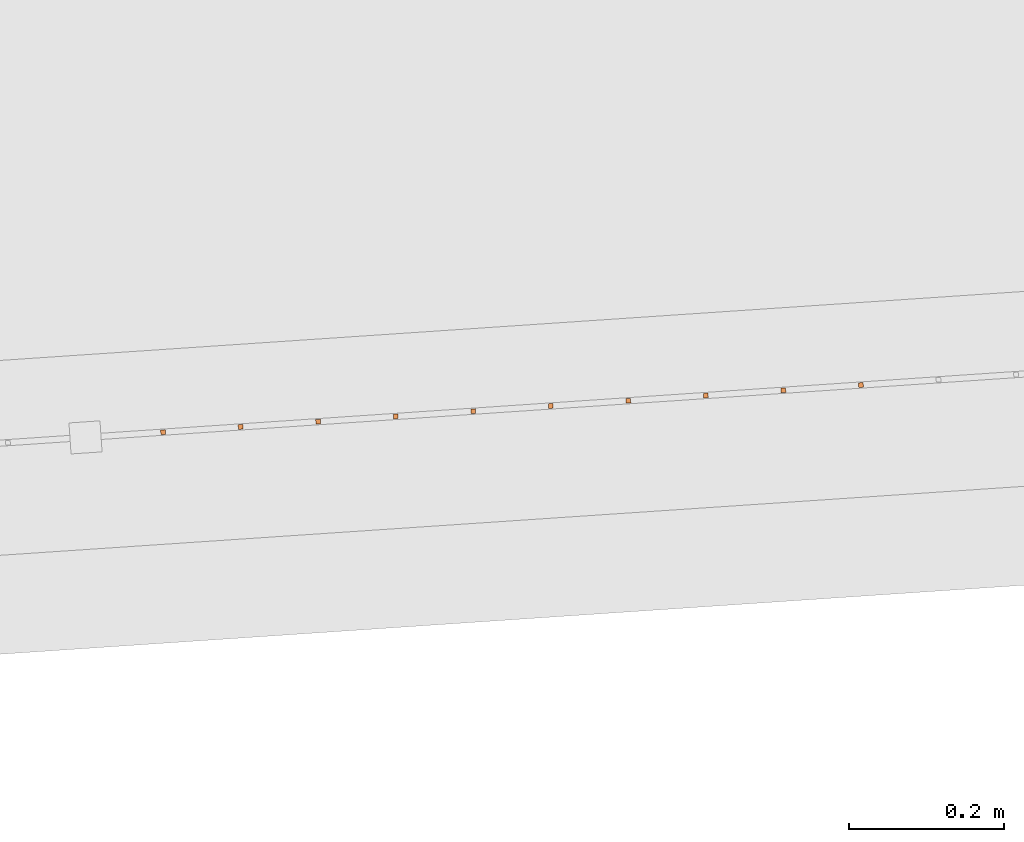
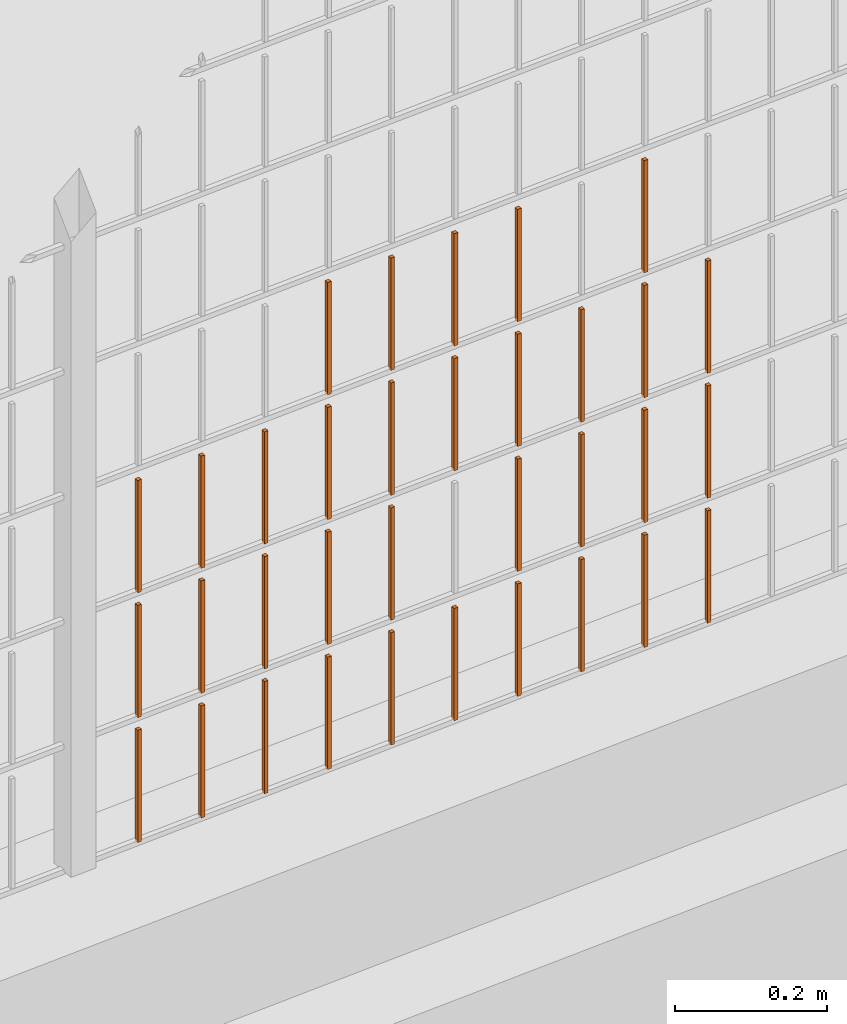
# One storey, part 322 of 1809: 34 proxies, 1 element without a shape of its own.
"""IFC2X3 building model written with IfcOpenShell, lengths in millimetres."""

from ifc_helpers import new_model, entity, si_unit, converted_unit, derived_unit, money_unit, direction, frame, origin_with_axes, place, context, subcontext, project, spatial, faceted_brep, source, transform, mapped, material, type_object, element, aggregate, save


model = new_model("IFC2X3")

# Units and contexts
model_context = context("Model", 3, precision=0.01, world=origin_with_axes(), true_north=direction((0.0, 1.0)))
body_context = subcontext(model_context, "Body", "Model", "MODEL_VIEW")
ifc_project = project(units=[si_unit("LENGTHUNIT", "METRE", prefix="MILLI"), si_unit("AREAUNIT", "SQUARE_METRE"), si_unit("VOLUMEUNIT", "CUBIC_METRE"), converted_unit("PLANEANGLEUNIT", "DEGREE", entity("IfcPlaneAngleMeasure", 0.0174532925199), si_unit("PLANEANGLEUNIT", "RADIAN"), dimensions=[0, 0, 0, 0, 0, 0, 0]), si_unit("SOLIDANGLEUNIT", "STERADIAN"), money_unit("EUR"), converted_unit("TIMEUNIT", "Year", entity("IfcTimeMeasure", 31556926.0), si_unit("TIMEUNIT", "SECOND"), dimensions=[0, 0, 1, 0, 0, 0, 0]), si_unit("MASSUNIT", "GRAM", prefix="KILO"), si_unit("THERMODYNAMICTEMPERATUREUNIT", "DEGREE_CELSIUS"), si_unit("LUMINOUSINTENSITYUNIT", "LUMEN"), si_unit("ENERGYUNIT", "JOULE", prefix="MEGA"), derived_unit("THERMALCONDUCTANCEUNIT", [(si_unit("POWERUNIT", "WATT"), 1), (si_unit("LENGTHUNIT", "METRE"), -1), (si_unit("THERMODYNAMICTEMPERATUREUNIT", "KELVIN"), -1)]), derived_unit("SPECIFICHEATCAPACITYUNIT", [(si_unit("ENERGYUNIT", "JOULE"), 1), (si_unit("MASSUNIT", "GRAM", prefix="KILO"), -1), (si_unit("THERMODYNAMICTEMPERATUREUNIT", "KELVIN"), -1)]), derived_unit("MASSDENSITYUNIT", [(si_unit("MASSUNIT", "GRAM", prefix="KILO"), 1), (si_unit("VOLUMEUNIT", "CUBIC_METRE"), -1)])], contexts=[model_context])

# Site, building, storey
site_placement = place(None, origin_with_axes())
site = spatial("IfcSite", under=ifc_project, at=site_placement, Name="Politse- ja Piirivalveameti ning Päästeameti ühishoone", CompositionType="ELEMENT")
building_placement = place(site_placement, origin_with_axes())
building = spatial("IfcBuilding", under=site, at=building_placement, Name="Politse- ja Piirivalveameti ning Päästeameti ühishoone", CompositionType="ELEMENT")
storey_placement = place(building_placement, origin_with_axes())
storey = spatial("IfcBuildingStorey", under=building, at=storey_placement, Name="Esimene korrus", CompositionType="ELEMENT", Elevation=0.0)

# Proxies
building_element_proxy_type_1 = type_object("IfcBuildingElementProxyType", Name="Railing Type", PredefinedType="NOTDEFINED")
proxy_1_placement = place(storey_placement, frame((89252.001212, -29183.4766571, 203.661247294), z_axis=(0.0, 0.0, 1.0), x_axis=(1.0, 0.0, 0.0)))
proxy_1 = element("IfcBuildingElementProxy", 1, at=proxy_1_placement, inside=storey, type_object=building_element_proxy_type_1, Name="PIIRDEAED")
ifc_material = material(Name="ET-03_Raud")
building_element_proxy_type_2 = type_object("IfcBuildingElementProxyType", Name="IfcBuildingElementProxy", PredefinedType="NOTDEFINED")
shared_shape_1 = source(origin_with_axes(), body_context, "Body", "Brep", [
    faceted_brep([(3.0, 3.0, -0.000752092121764), (-3.0, 3.0, -0.000752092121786), (-3.0, 3.0, 179.99926046), (3.0, 3.0, 179.99926046), (3.0, -3.0, 0.000752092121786), (-3.0, -3.0, 0.000752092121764), (-3.0, -3.0, 180.000764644), (3.0, -3.0, 180.000764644)], [[[0, 1, 2, 3]], [[0, 4, 5, 1]], [[1, 5, 6, 2]], [[3, 2, 6, 7]], [[4, 0, 3, 7]], [[5, 4, 7, 6]]]),
])
proxy_2_placement = place(proxy_1_placement, frame((-37142.0542199, -19806.5803551, 217.901752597), z_axis=(0.0, 0.0, 1.0), x_axis=(1.0, 0.0, 0.0)))
proxy_2 = element("IfcBuildingElementProxy", 2, at=proxy_2_placement, type_object=building_element_proxy_type_2, material=ifc_material, Name="BALUSTER - 001", context=body_context, shape_type="MappedRepresentation", body=[
    mapped(shared_shape_1, transform((0.0, 0.0, 0.0), x_axis=(-0.0673926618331, 0.997726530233, 0.0), y_axis=(-0.997726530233, -0.0673926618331, 0.0), z_axis=(0.0, 0.0, 1.0))),
])
shared_shape_2 = source(origin_with_axes(), body_context, "Body", "Brep", [
    faceted_brep([(3.0, 3.0, -0.000752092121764), (-3.0, 3.0, -0.000752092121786), (-3.0, 3.0, 179.99926046), (3.0, 3.0, 179.99926046), (3.0, -3.0, 0.000752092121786), (-3.0, -3.0, 0.000752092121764), (-3.0, -3.0, 180.000764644), (3.0, -3.0, 180.000764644)], [[[0, 1, 2, 3]], [[0, 4, 5, 1]], [[1, 5, 6, 2]], [[3, 2, 6, 7]], [[4, 0, 3, 7]], [[5, 4, 7, 6]]]),
])
proxy_3_placement = place(proxy_1_placement, frame((-37142.0542199, -19806.5803551, 417.901752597), z_axis=(0.0, 0.0, 1.0), x_axis=(1.0, 0.0, 0.0)))
proxy_3 = element("IfcBuildingElementProxy", 3, at=proxy_3_placement, type_object=building_element_proxy_type_2, material=ifc_material, Name="BALUSTER - 001", context=body_context, shape_type="MappedRepresentation", body=[
    mapped(shared_shape_2, transform((0.0, 0.0, 0.0), x_axis=(-0.0673926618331, 0.997726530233, 0.0), y_axis=(-0.997726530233, -0.0673926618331, 0.0), z_axis=(0.0, 0.0, 1.0))),
])
shared_shape_3 = source(origin_with_axes(), body_context, "Body", "Brep", [
    faceted_brep([(3.0, 3.0, -0.000752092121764), (-3.0, 3.0, -0.000752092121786), (-3.0, 3.0, 179.99926046), (3.0, 3.0, 179.99926046), (3.0, -3.0, 0.000752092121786), (-3.0, -3.0, 0.000752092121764), (-3.0, -3.0, 180.000764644), (3.0, -3.0, 180.000764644)], [[[0, 1, 2, 3]], [[0, 4, 5, 1]], [[1, 5, 6, 2]], [[3, 2, 6, 7]], [[4, 0, 3, 7]], [[5, 4, 7, 6]]]),
])
proxy_4_placement = place(proxy_1_placement, frame((-37142.0542199, -19806.5803551, 17.9017525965), z_axis=(0.0, 0.0, 1.0), x_axis=(1.0, 0.0, 0.0)))
proxy_4 = element("IfcBuildingElementProxy", 4, at=proxy_4_placement, type_object=building_element_proxy_type_2, material=ifc_material, Name="BALUSTER - 001", context=body_context, shape_type="MappedRepresentation", body=[
    mapped(shared_shape_3, transform((0.0, 0.0, 0.0), x_axis=(-0.0673926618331, 0.997726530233, 0.0), y_axis=(-0.997726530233, -0.0673926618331, 0.0), z_axis=(0.0, 0.0, 1.0))),
])
shared_shape_4 = source(origin_with_axes(), body_context, "Body", "Brep", [
    faceted_brep([(3.0, 3.0, -0.000752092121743), (-3.0, 3.0, -0.000752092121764), (-3.0, 3.0, 179.99926046), (3.0, 3.0, 179.99926046), (3.0, -3.0, 0.000752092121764), (-3.0, -3.0, 0.000752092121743), (-3.0, -3.0, 180.000764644), (3.0, -3.0, 180.000764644)], [[[0, 1, 2, 3]], [[0, 4, 5, 1]], [[1, 5, 6, 2]], [[3, 2, 6, 7]], [[4, 0, 3, 7]], [[5, 4, 7, 6]]]),
])
proxy_5_placement = place(proxy_1_placement, frame((-36343.8729957, -19752.6662256, 218.102310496), z_axis=(0.0, 0.0, 1.0), x_axis=(1.0, 0.0, 0.0)))
proxy_5 = element("IfcBuildingElementProxy", 5, at=proxy_5_placement, type_object=building_element_proxy_type_2, material=ifc_material, Name="BALUSTER - 001", context=body_context, shape_type="MappedRepresentation", body=[
    mapped(shared_shape_4, transform((0.0, 0.0, 0.0), x_axis=(-0.0673926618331, 0.997726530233, 0.0), y_axis=(-0.997726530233, -0.0673926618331, 0.0), z_axis=(0.0, 0.0, 1.0))),
])
proxy_6_placement = place(proxy_1_placement, frame((-36343.8729957, -19752.6662256, 418.102310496), z_axis=(0.0, 0.0, 1.0), x_axis=(1.0, 0.0, 0.0)))
proxy_6 = element("IfcBuildingElementProxy", 6, at=proxy_6_placement, type_object=building_element_proxy_type_2, material=ifc_material, Name="BALUSTER - 001", context=body_context, shape_type="MappedRepresentation", body=[
    mapped(shared_shape_4, transform((0.0, 0.0, 0.0), x_axis=(-0.0673926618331, 0.997726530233, 0.0), y_axis=(-0.997726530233, -0.0673926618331, 0.0), z_axis=(0.0, 0.0, 1.0))),
])
shared_shape_5 = source(origin_with_axes(), body_context, "Body", "Brep", [
    faceted_brep([(3.0, 3.0, -0.000752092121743), (-3.0, 3.0, -0.000752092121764), (-3.0, 3.0, 179.99926046), (3.0, 3.0, 179.99926046), (3.0, -3.0, 0.000752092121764), (-3.0, -3.0, 0.000752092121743), (-3.0, -3.0, 180.000764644), (3.0, -3.0, 180.000764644)], [[[0, 1, 2, 3]], [[0, 4, 5, 1]], [[1, 5, 6, 2]], [[3, 2, 6, 7]], [[4, 0, 3, 7]], [[5, 4, 7, 6]]]),
])
proxy_7_placement = place(proxy_1_placement, frame((-36343.8729957, -19752.6662256, 618.102310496), z_axis=(0.0, 0.0, 1.0), x_axis=(1.0, 0.0, 0.0)))
proxy_7 = element("IfcBuildingElementProxy", 7, at=proxy_7_placement, type_object=building_element_proxy_type_2, material=ifc_material, Name="BALUSTER - 001", context=body_context, shape_type="MappedRepresentation", body=[
    mapped(shared_shape_5, transform((0.0, 0.0, 0.0), x_axis=(-0.0673926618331, 0.997726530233, 0.0), y_axis=(-0.997726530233, -0.0673926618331, 0.0), z_axis=(0.0, 0.0, 1.0))),
])
shared_shape_6 = source(origin_with_axes(), body_context, "Body", "Brep", [
    faceted_brep([(3.0, 3.0, -0.000752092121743), (-3.0, 3.0, -0.000752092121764), (-3.0, 3.0, 179.99926046), (3.0, 3.0, 179.99926046), (3.0, -3.0, 0.000752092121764), (-3.0, -3.0, 0.000752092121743), (-3.0, -3.0, 180.000764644), (3.0, -3.0, 180.000764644)], [[[0, 1, 2, 3]], [[0, 4, 5, 1]], [[1, 5, 6, 2]], [[3, 2, 6, 7]], [[4, 0, 3, 7]], [[5, 4, 7, 6]]]),
])
proxy_8_placement = place(proxy_1_placement, frame((-36343.8729957, -19752.6662256, 18.1023104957), z_axis=(0.0, 0.0, 1.0), x_axis=(1.0, 0.0, 0.0)))
proxy_8 = element("IfcBuildingElementProxy", 8, at=proxy_8_placement, type_object=building_element_proxy_type_2, material=ifc_material, Name="BALUSTER - 001", context=body_context, shape_type="MappedRepresentation", body=[
    mapped(shared_shape_6, transform((0.0, 0.0, 0.0), x_axis=(-0.0673926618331, 0.997726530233, 0.0), y_axis=(-0.997726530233, -0.0673926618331, 0.0), z_axis=(0.0, 0.0, 1.0))),
])
shared_shape_7 = source(origin_with_axes(), body_context, "Body", "Brep", [
    faceted_brep([(3.0, 3.0, -0.000752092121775), (-3.0, 3.0, -0.000752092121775), (-3.0, 3.0, 179.99926046), (3.0, 3.0, 179.99926046), (3.0, -3.0, 0.000752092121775), (-3.0, -3.0, 0.000752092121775), (-3.0, -3.0, 180.000764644), (3.0, -3.0, 180.000764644)], [[[0, 1, 2, 3]], [[0, 4, 5, 1]], [[1, 5, 6, 2]], [[3, 2, 6, 7]], [[4, 0, 3, 7]], [[5, 4, 7, 6]]]),
])
proxy_9_placement = place(proxy_1_placement, frame((-36543.4183017, -19766.144758, 18.0521710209), z_axis=(0.0, 0.0, 1.0), x_axis=(1.0, 0.0, 0.0)))
proxy_9 = element("IfcBuildingElementProxy", 9, at=proxy_9_placement, type_object=building_element_proxy_type_2, material=ifc_material, Name="BALUSTER - 001", context=body_context, shape_type="MappedRepresentation", body=[
    mapped(shared_shape_7, transform((0.0, 0.0, 0.0), x_axis=(-0.0673926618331, 0.997726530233, 0.0), y_axis=(-0.997726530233, -0.0673926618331, 0.0), z_axis=(0.0, 0.0, 1.0))),
])
shared_shape_8 = source(origin_with_axes(), body_context, "Body", "Brep", [
    faceted_brep([(3.0, 3.0, -0.000752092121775), (-3.0, 3.0, -0.000752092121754), (-3.0, 3.0, 179.99926046), (3.0, 3.0, 179.99926046), (3.0, -3.0, 0.000752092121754), (-3.0, -3.0, 0.000752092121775), (-3.0, -3.0, 180.000764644), (3.0, -3.0, 180.000764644)], [[[0, 1, 2, 3]], [[0, 4, 5, 1]], [[1, 5, 6, 2]], [[3, 2, 6, 7]], [[4, 0, 3, 7]], [[5, 4, 7, 6]]]),
])
proxy_10_placement = place(proxy_1_placement, frame((-36742.9636078, -19779.6232904, 18.0020315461), z_axis=(0.0, 0.0, 1.0), x_axis=(1.0, 0.0, 0.0)))
proxy_10 = element("IfcBuildingElementProxy", 10, at=proxy_10_placement, type_object=building_element_proxy_type_2, material=ifc_material, Name="BALUSTER - 001", context=body_context, shape_type="MappedRepresentation", body=[
    mapped(shared_shape_8, transform((0.0, 0.0, 0.0), x_axis=(-0.0673926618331, 0.997726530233, 0.0), y_axis=(-0.997726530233, -0.0673926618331, 0.0), z_axis=(0.0, 0.0, 1.0))),
])
shared_shape_9 = source(origin_with_axes(), body_context, "Body", "Brep", [
    faceted_brep([(3.0, 3.0, -0.000752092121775), (-3.0, 3.0, -0.000752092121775), (-3.0, 3.0, 179.99926046), (3.0, 3.0, 179.99926046), (3.0, -3.0, 0.000752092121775), (-3.0, -3.0, 0.000752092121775), (-3.0, -3.0, 180.000764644), (3.0, -3.0, 180.000764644)], [[[0, 1, 2, 3]], [[0, 4, 5, 1]], [[1, 5, 6, 2]], [[3, 2, 6, 7]], [[4, 0, 3, 7]], [[5, 4, 7, 6]]]),
])
proxy_11_placement = place(proxy_1_placement, frame((-36543.4183017, -19766.144758, 218.052171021), z_axis=(0.0, 0.0, 1.0), x_axis=(1.0, 0.0, 0.0)))
proxy_11 = element("IfcBuildingElementProxy", 11, at=proxy_11_placement, type_object=building_element_proxy_type_2, material=ifc_material, Name="BALUSTER - 001", context=body_context, shape_type="MappedRepresentation", body=[
    mapped(shared_shape_9, transform((0.0, 0.0, 0.0), x_axis=(-0.0673926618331, 0.997726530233, 0.0), y_axis=(-0.997726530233, -0.0673926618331, 0.0), z_axis=(0.0, 0.0, 1.0))),
])
proxy_12_placement = place(proxy_1_placement, frame((-36543.4183017, -19766.144758, 418.052171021), z_axis=(0.0, 0.0, 1.0), x_axis=(1.0, 0.0, 0.0)))
proxy_12 = element("IfcBuildingElementProxy", 12, at=proxy_12_placement, type_object=building_element_proxy_type_2, material=ifc_material, Name="BALUSTER - 001", context=body_context, shape_type="MappedRepresentation", body=[
    mapped(shared_shape_9, transform((0.0, 0.0, 0.0), x_axis=(-0.0673926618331, 0.997726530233, 0.0), y_axis=(-0.997726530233, -0.0673926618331, 0.0), z_axis=(0.0, 0.0, 1.0))),
])
shared_shape_10 = source(origin_with_axes(), body_context, "Body", "Brep", [
    faceted_brep([(3.0, 3.0, -0.000752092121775), (-3.0, 3.0, -0.000752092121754), (-3.0, 3.0, 179.99926046), (3.0, 3.0, 179.99926046), (3.0, -3.0, 0.000752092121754), (-3.0, -3.0, 0.000752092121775), (-3.0, -3.0, 180.000764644), (3.0, -3.0, 180.000764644)], [[[0, 1, 2, 3]], [[0, 4, 5, 1]], [[1, 5, 6, 2]], [[3, 2, 6, 7]], [[4, 0, 3, 7]], [[5, 4, 7, 6]]]),
])
proxy_13_placement = place(proxy_1_placement, frame((-36742.9636078, -19779.6232904, 218.002031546), z_axis=(0.0, 0.0, 1.0), x_axis=(1.0, 0.0, 0.0)))
proxy_13 = element("IfcBuildingElementProxy", 13, at=proxy_13_placement, type_object=building_element_proxy_type_2, material=ifc_material, Name="BALUSTER - 001", context=body_context, shape_type="MappedRepresentation", body=[
    mapped(shared_shape_10, transform((0.0, 0.0, 0.0), x_axis=(-0.0673926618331, 0.997726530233, 0.0), y_axis=(-0.997726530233, -0.0673926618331, 0.0), z_axis=(0.0, 0.0, 1.0))),
])
shared_shape_11 = source(origin_with_axes(), body_context, "Body", "Brep", [
    faceted_brep([(3.0, 3.0, -0.000752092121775), (-3.0, 3.0, -0.000752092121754), (-3.0, 3.0, 179.99926046), (3.0, 3.0, 179.99926046), (3.0, -3.0, 0.000752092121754), (-3.0, -3.0, 0.000752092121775), (-3.0, -3.0, 180.000764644), (3.0, -3.0, 180.000764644)], [[[0, 1, 2, 3]], [[0, 4, 5, 1]], [[1, 5, 6, 2]], [[3, 2, 6, 7]], [[4, 0, 3, 7]], [[5, 4, 7, 6]]]),
])
proxy_14_placement = place(proxy_1_placement, frame((-36742.9636078, -19779.6232904, 418.002031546), z_axis=(0.0, 0.0, 1.0), x_axis=(1.0, 0.0, 0.0)))
proxy_14 = element("IfcBuildingElementProxy", 14, at=proxy_14_placement, type_object=building_element_proxy_type_2, material=ifc_material, Name="BALUSTER - 001", context=body_context, shape_type="MappedRepresentation", body=[
    mapped(shared_shape_11, transform((0.0, 0.0, 0.0), x_axis=(-0.0673926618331, 0.997726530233, 0.0), y_axis=(-0.997726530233, -0.0673926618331, 0.0), z_axis=(0.0, 0.0, 1.0))),
])
shared_shape_12 = source(origin_with_axes(), body_context, "Body", "Brep", [
    faceted_brep([(3.0, 3.0, -0.000752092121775), (-3.0, 3.0, -0.000752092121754), (-3.0, 3.0, 179.99926046), (3.0, 3.0, 179.99926046), (3.0, -3.0, 0.000752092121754), (-3.0, -3.0, 0.000752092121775), (-3.0, -3.0, 180.000764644), (3.0, -3.0, 180.000764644)], [[[0, 1, 2, 3]], [[0, 4, 5, 1]], [[1, 5, 6, 2]], [[3, 2, 6, 7]], [[4, 0, 3, 7]], [[5, 4, 7, 6]]]),
])
proxy_15_placement = place(proxy_1_placement, frame((-36742.9636078, -19779.6232904, 618.002031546), z_axis=(0.0, 0.0, 1.0), x_axis=(1.0, 0.0, 0.0)))
proxy_15 = element("IfcBuildingElementProxy", 15, at=proxy_15_placement, type_object=building_element_proxy_type_2, material=ifc_material, Name="BALUSTER - 001", context=body_context, shape_type="MappedRepresentation", body=[
    mapped(shared_shape_12, transform((0.0, 0.0, 0.0), x_axis=(-0.0673926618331, 0.997726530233, 0.0), y_axis=(-0.997726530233, -0.0673926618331, 0.0), z_axis=(0.0, 0.0, 1.0))),
])
shared_shape_13 = source(origin_with_axes(), body_context, "Body", "Brep", [
    faceted_brep([(3.0, 3.0, -0.000752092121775), (-3.0, 3.0, -0.000752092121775), (-3.0, 3.0, 179.99926046), (3.0, 3.0, 179.99926046), (3.0, -3.0, 0.000752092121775), (-3.0, -3.0, 0.000752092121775), (-3.0, -3.0, 180.000764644), (3.0, -3.0, 180.000764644)], [[[0, 1, 2, 3]], [[0, 4, 5, 1]], [[1, 5, 6, 2]], [[3, 2, 6, 7]], [[4, 0, 3, 7]], [[5, 4, 7, 6]]]),
])
proxy_16_placement = place(proxy_1_placement, frame((-36543.4183017, -19766.144758, 618.052171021), z_axis=(0.0, 0.0, 1.0), x_axis=(1.0, 0.0, 0.0)))
proxy_16 = element("IfcBuildingElementProxy", 16, at=proxy_16_placement, type_object=building_element_proxy_type_2, material=ifc_material, Name="BALUSTER - 001", context=body_context, shape_type="MappedRepresentation", body=[
    mapped(shared_shape_13, transform((0.0, 0.0, 0.0), x_axis=(-0.0673926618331, 0.997726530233, 0.0), y_axis=(-0.997726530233, -0.0673926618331, 0.0), z_axis=(0.0, 0.0, 1.0))),
])
shared_shape_14 = source(origin_with_axes(), body_context, "Body", "Brep", [
    faceted_brep([(3.0, 3.0, -0.000752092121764), (-3.0, 3.0, -0.000752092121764), (-3.0, 3.0, 179.99926046), (3.0, 3.0, 179.99926046), (3.0, -3.0, 0.000752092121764), (-3.0, -3.0, 0.000752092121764), (-3.0, -3.0, 180.000764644), (3.0, -3.0, 180.000764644)], [[[0, 1, 2, 3]], [[0, 4, 5, 1]], [[1, 5, 6, 2]], [[3, 2, 6, 7]], [[4, 0, 3, 7]], [[5, 4, 7, 6]]]),
])
proxy_17_placement = place(proxy_1_placement, frame((-36842.7362608, -19786.3625566, 617.976961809), z_axis=(0.0, 0.0, 1.0), x_axis=(1.0, 0.0, 0.0)))
proxy_17 = element("IfcBuildingElementProxy", 17, at=proxy_17_placement, type_object=building_element_proxy_type_2, material=ifc_material, Name="BALUSTER - 001", context=body_context, shape_type="MappedRepresentation", body=[
    mapped(shared_shape_14, transform((0.0, 0.0, 0.0), x_axis=(-0.0673926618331, 0.997726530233, 0.0), y_axis=(-0.997726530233, -0.0673926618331, 0.0), z_axis=(0.0, 0.0, 1.0))),
])
shared_shape_15 = source(origin_with_axes(), body_context, "Body", "Brep", [
    faceted_brep([(3.0, 3.0, -0.000752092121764), (-3.0, 3.0, -0.000752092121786), (-3.0, 3.0, 179.99926046), (3.0, 3.0, 179.99926046), (3.0, -3.0, 0.000752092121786), (-3.0, -3.0, 0.000752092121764), (-3.0, -3.0, 180.000764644), (3.0, -3.0, 180.000764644)], [[[0, 1, 2, 3]], [[0, 4, 5, 1]], [[1, 5, 6, 2]], [[3, 2, 6, 7]], [[4, 0, 3, 7]], [[5, 4, 7, 6]]]),
])
proxy_18_placement = place(proxy_1_placement, frame((-37042.2815668, -19799.8410889, 17.9268223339), z_axis=(0.0, 0.0, 1.0), x_axis=(1.0, 0.0, 0.0)))
proxy_18 = element("IfcBuildingElementProxy", 18, at=proxy_18_placement, type_object=building_element_proxy_type_2, material=ifc_material, Name="BALUSTER - 001", context=body_context, shape_type="MappedRepresentation", body=[
    mapped(shared_shape_15, transform((0.0, 0.0, 0.0), x_axis=(-0.0673926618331, 0.997726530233, 0.0), y_axis=(-0.997726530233, -0.0673926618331, 0.0), z_axis=(0.0, 0.0, 1.0))),
])
shared_shape_16 = source(origin_with_axes(), body_context, "Body", "Brep", [
    faceted_brep([(3.0, 3.0, -0.000752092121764), (-3.0, 3.0, -0.000752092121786), (-3.0, 3.0, 179.99926046), (3.0, 3.0, 179.99926046), (3.0, -3.0, 0.000752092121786), (-3.0, -3.0, 0.000752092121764), (-3.0, -3.0, 180.000764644), (3.0, -3.0, 180.000764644)], [[[0, 1, 2, 3]], [[0, 4, 5, 1]], [[1, 5, 6, 2]], [[3, 2, 6, 7]], [[4, 0, 3, 7]], [[5, 4, 7, 6]]]),
])
proxy_19_placement = place(proxy_1_placement, frame((-37042.2815668, -19799.8410889, 217.926822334), z_axis=(0.0, 0.0, 1.0), x_axis=(1.0, 0.0, 0.0)))
proxy_19 = element("IfcBuildingElementProxy", 19, at=proxy_19_placement, type_object=building_element_proxy_type_2, material=ifc_material, Name="BALUSTER - 001", context=body_context, shape_type="MappedRepresentation", body=[
    mapped(shared_shape_16, transform((0.0, 0.0, 0.0), x_axis=(-0.0673926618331, 0.997726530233, 0.0), y_axis=(-0.997726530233, -0.0673926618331, 0.0), z_axis=(0.0, 0.0, 1.0))),
])
proxy_20_placement = place(proxy_1_placement, frame((-37042.2815668, -19799.8410889, 417.926822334), z_axis=(0.0, 0.0, 1.0), x_axis=(1.0, 0.0, 0.0)))
proxy_20 = element("IfcBuildingElementProxy", 20, at=proxy_20_placement, type_object=building_element_proxy_type_2, material=ifc_material, Name="BALUSTER - 001", context=body_context, shape_type="MappedRepresentation", body=[
    mapped(shared_shape_16, transform((0.0, 0.0, 0.0), x_axis=(-0.0673926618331, 0.997726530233, 0.0), y_axis=(-0.997726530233, -0.0673926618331, 0.0), z_axis=(0.0, 0.0, 1.0))),
])
shared_shape_17 = source(origin_with_axes(), body_context, "Body", "Brep", [
    faceted_brep([(3.0, 3.0, -0.000752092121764), (-3.0, 3.0, -0.000752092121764), (-3.0, 3.0, 179.99926046), (3.0, 3.0, 179.99926046), (3.0, -3.0, 0.000752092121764), (-3.0, -3.0, 0.000752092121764), (-3.0, -3.0, 180.000764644), (3.0, -3.0, 180.000764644)], [[[0, 1, 2, 3]], [[0, 4, 5, 1]], [[1, 5, 6, 2]], [[3, 2, 6, 7]], [[4, 0, 3, 7]], [[5, 4, 7, 6]]]),
])
proxy_21_placement = place(proxy_1_placement, frame((-36842.7362608, -19786.3625566, 417.976961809), z_axis=(0.0, 0.0, 1.0), x_axis=(1.0, 0.0, 0.0)))
proxy_21 = element("IfcBuildingElementProxy", 21, at=proxy_21_placement, type_object=building_element_proxy_type_2, material=ifc_material, Name="BALUSTER - 001", context=body_context, shape_type="MappedRepresentation", body=[
    mapped(shared_shape_17, transform((0.0, 0.0, 0.0), x_axis=(-0.0673926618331, 0.997726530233, 0.0), y_axis=(-0.997726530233, -0.0673926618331, 0.0), z_axis=(0.0, 0.0, 1.0))),
])
shared_shape_18 = source(origin_with_axes(), body_context, "Body", "Brep", [
    faceted_brep([(3.0, 3.0, -0.000752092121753), (-3.0, 3.0, -0.000752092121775), (-3.0, 3.0, 179.99926046), (3.0, 3.0, 179.99926046), (3.0, -3.0, 0.000752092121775), (-3.0, -3.0, 0.000752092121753), (-3.0, -3.0, 180.000764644), (3.0, -3.0, 180.000764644)], [[[0, 1, 2, 3]], [[0, 4, 5, 1]], [[1, 5, 6, 2]], [[3, 2, 6, 7]], [[4, 0, 3, 7]], [[5, 4, 7, 6]]]),
])
proxy_22_placement = place(proxy_1_placement, frame((-36244.1003426, -19745.9269595, 18.1273802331), z_axis=(0.0, 0.0, 1.0), x_axis=(1.0, 0.0, 0.0)))
proxy_22 = element("IfcBuildingElementProxy", 22, at=proxy_22_placement, type_object=building_element_proxy_type_2, material=ifc_material, Name="BALUSTER - 001", context=body_context, shape_type="MappedRepresentation", body=[
    mapped(shared_shape_18, transform((0.0, 0.0, 0.0), x_axis=(-0.0673926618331, 0.997726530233, 0.0), y_axis=(-0.997726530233, -0.0673926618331, 0.0), z_axis=(0.0, 0.0, 1.0))),
])
proxy_23_placement = place(proxy_1_placement, frame((-36244.1003426, -19745.9269595, 218.127380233), z_axis=(0.0, 0.0, 1.0), x_axis=(1.0, 0.0, 0.0)))
proxy_23 = element("IfcBuildingElementProxy", 23, at=proxy_23_placement, type_object=building_element_proxy_type_2, material=ifc_material, Name="BALUSTER - 001", context=body_context, shape_type="MappedRepresentation", body=[
    mapped(shared_shape_18, transform((0.0, 0.0, 0.0), x_axis=(-0.0673926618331, 0.997726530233, 0.0), y_axis=(-0.997726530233, -0.0673926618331, 0.0), z_axis=(0.0, 0.0, 1.0))),
])
shared_shape_19 = source(origin_with_axes(), body_context, "Body", "Brep", [
    faceted_brep([(3.0, 3.0, -0.000752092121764), (-3.0, 3.0, -0.000752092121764), (-3.0, 3.0, 179.99926046), (3.0, 3.0, 179.99926046), (3.0, -3.0, 0.000752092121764), (-3.0, -3.0, 0.000752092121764), (-3.0, -3.0, 180.000764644), (3.0, -3.0, 180.000764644)], [[[0, 1, 2, 3]], [[0, 4, 5, 1]], [[1, 5, 6, 2]], [[3, 2, 6, 7]], [[4, 0, 3, 7]], [[5, 4, 7, 6]]]),
])
proxy_24_placement = place(proxy_1_placement, frame((-36443.6456487, -19759.4054918, 18.0772407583), z_axis=(0.0, 0.0, 1.0), x_axis=(1.0, 0.0, 0.0)))
proxy_24 = element("IfcBuildingElementProxy", 24, at=proxy_24_placement, type_object=building_element_proxy_type_2, material=ifc_material, Name="BALUSTER - 001", context=body_context, shape_type="MappedRepresentation", body=[
    mapped(shared_shape_19, transform((0.0, 0.0, 0.0), x_axis=(-0.0673926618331, 0.997726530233, 0.0), y_axis=(-0.997726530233, -0.0673926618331, 0.0), z_axis=(0.0, 0.0, 1.0))),
])
shared_shape_20 = source(origin_with_axes(), body_context, "Body", "Brep", [
    faceted_brep([(3.0, 3.0, -0.000752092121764), (-3.0, 3.0, -0.000752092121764), (-3.0, 3.0, 179.99926046), (3.0, 3.0, 179.99926046), (3.0, -3.0, 0.000752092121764), (-3.0, -3.0, 0.000752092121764), (-3.0, -3.0, 180.000764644), (3.0, -3.0, 180.000764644)], [[[0, 1, 2, 3]], [[0, 4, 5, 1]], [[1, 5, 6, 2]], [[3, 2, 6, 7]], [[4, 0, 3, 7]], [[5, 4, 7, 6]]]),
])
proxy_25_placement = place(proxy_1_placement, frame((-36942.5089138, -19793.1018227, 217.951892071), z_axis=(0.0, 0.0, 1.0), x_axis=(1.0, 0.0, 0.0)))
proxy_25 = element("IfcBuildingElementProxy", 25, at=proxy_25_placement, type_object=building_element_proxy_type_2, material=ifc_material, Name="BALUSTER - 001", context=body_context, shape_type="MappedRepresentation", body=[
    mapped(shared_shape_20, transform((0.0, 0.0, 0.0), x_axis=(-0.0673926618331, 0.997726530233, 0.0), y_axis=(-0.997726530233, -0.0673926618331, 0.0), z_axis=(0.0, 0.0, 1.0))),
])
proxy_26_placement = place(proxy_1_placement, frame((-36443.6456487, -19759.4054918, 418.077240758), z_axis=(0.0, 0.0, 1.0), x_axis=(1.0, 0.0, 0.0)))
proxy_26 = element("IfcBuildingElementProxy", 26, at=proxy_26_placement, type_object=building_element_proxy_type_2, material=ifc_material, Name="BALUSTER - 001", context=body_context, shape_type="MappedRepresentation", body=[
    mapped(shared_shape_20, transform((0.0, 0.0, 0.0), x_axis=(-0.0673926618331, 0.997726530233, 0.0), y_axis=(-0.997726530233, -0.0673926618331, 0.0), z_axis=(0.0, 0.0, 1.0))),
])
shared_shape_21 = source(origin_with_axes(), body_context, "Body", "Brep", [
    faceted_brep([(3.0, 3.0, -0.000752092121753), (-3.0, 3.0, -0.000752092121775), (-3.0, 3.0, 179.99926046), (3.0, 3.0, 179.99926046), (3.0, -3.0, 0.000752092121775), (-3.0, -3.0, 0.000752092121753), (-3.0, -3.0, 180.000764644), (3.0, -3.0, 180.000764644)], [[[0, 1, 2, 3]], [[0, 4, 5, 1]], [[1, 5, 6, 2]], [[3, 2, 6, 7]], [[4, 0, 3, 7]], [[5, 4, 7, 6]]]),
])
proxy_27_placement = place(proxy_1_placement, frame((-36244.1003426, -19745.9269595, 418.127380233), z_axis=(0.0, 0.0, 1.0), x_axis=(1.0, 0.0, 0.0)))
proxy_27 = element("IfcBuildingElementProxy", 27, at=proxy_27_placement, type_object=building_element_proxy_type_2, material=ifc_material, Name="BALUSTER - 001", context=body_context, shape_type="MappedRepresentation", body=[
    mapped(shared_shape_21, transform((0.0, 0.0, 0.0), x_axis=(-0.0673926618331, 0.997726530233, 0.0), y_axis=(-0.997726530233, -0.0673926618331, 0.0), z_axis=(0.0, 0.0, 1.0))),
])
shared_shape_22 = source(origin_with_axes(), body_context, "Body", "Brep", [
    faceted_brep([(3.0, 3.0, -0.000752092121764), (-3.0, 3.0, -0.000752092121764), (-3.0, 3.0, 179.99926046), (3.0, 3.0, 179.99926046), (3.0, -3.0, 0.000752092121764), (-3.0, -3.0, 0.000752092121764), (-3.0, -3.0, 180.000764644), (3.0, -3.0, 180.000764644)], [[[0, 1, 2, 3]], [[0, 4, 5, 1]], [[1, 5, 6, 2]], [[3, 2, 6, 7]], [[4, 0, 3, 7]], [[5, 4, 7, 6]]]),
])
proxy_28_placement = place(proxy_1_placement, frame((-36443.6456487, -19759.4054918, 218.077240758), z_axis=(0.0, 0.0, 1.0), x_axis=(1.0, 0.0, 0.0)))
proxy_28 = element("IfcBuildingElementProxy", 28, at=proxy_28_placement, type_object=building_element_proxy_type_2, material=ifc_material, Name="BALUSTER - 001", context=body_context, shape_type="MappedRepresentation", body=[
    mapped(shared_shape_22, transform((0.0, 0.0, 0.0), x_axis=(-0.0673926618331, 0.997726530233, 0.0), y_axis=(-0.997726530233, -0.0673926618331, 0.0), z_axis=(0.0, 0.0, 1.0))),
])
proxy_29_placement = place(proxy_1_placement, frame((-36942.5089138, -19793.1018227, 417.951892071), z_axis=(0.0, 0.0, 1.0), x_axis=(1.0, 0.0, 0.0)))
proxy_29 = element("IfcBuildingElementProxy", 29, at=proxy_29_placement, type_object=building_element_proxy_type_2, material=ifc_material, Name="BALUSTER - 001", context=body_context, shape_type="MappedRepresentation", body=[
    mapped(shared_shape_22, transform((0.0, 0.0, 0.0), x_axis=(-0.0673926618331, 0.997726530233, 0.0), y_axis=(-0.997726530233, -0.0673926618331, 0.0), z_axis=(0.0, 0.0, 1.0))),
])
shared_shape_23 = source(origin_with_axes(), body_context, "Body", "Brep", [
    faceted_brep([(3.0, 3.0, -0.000752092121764), (-3.0, 3.0, -0.000752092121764), (-3.0, 3.0, 179.99926046), (3.0, 3.0, 179.99926046), (3.0, -3.0, 0.000752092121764), (-3.0, -3.0, 0.000752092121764), (-3.0, -3.0, 180.000764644), (3.0, -3.0, 180.000764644)], [[[0, 1, 2, 3]], [[0, 4, 5, 1]], [[1, 5, 6, 2]], [[3, 2, 6, 7]], [[4, 0, 3, 7]], [[5, 4, 7, 6]]]),
])
proxy_30_placement = place(proxy_1_placement, frame((-36942.5089138, -19793.1018227, 17.9518920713), z_axis=(0.0, 0.0, 1.0), x_axis=(1.0, 0.0, 0.0)))
proxy_30 = element("IfcBuildingElementProxy", 30, at=proxy_30_placement, type_object=building_element_proxy_type_2, material=ifc_material, Name="BALUSTER - 001", context=body_context, shape_type="MappedRepresentation", body=[
    mapped(shared_shape_23, transform((0.0, 0.0, 0.0), x_axis=(-0.0673926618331, 0.997726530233, 0.0), y_axis=(-0.997726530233, -0.0673926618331, 0.0), z_axis=(0.0, 0.0, 1.0))),
])
shared_shape_24 = source(origin_with_axes(), body_context, "Body", "Brep", [
    faceted_brep([(3.0, 3.0, -0.000752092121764), (-3.0, 3.0, -0.000752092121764), (-3.0, 3.0, 179.99926046), (3.0, 3.0, 179.99926046), (3.0, -3.0, 0.000752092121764), (-3.0, -3.0, 0.000752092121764), (-3.0, -3.0, 180.000764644), (3.0, -3.0, 180.000764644)], [[[0, 1, 2, 3]], [[0, 4, 5, 1]], [[1, 5, 6, 2]], [[3, 2, 6, 7]], [[4, 0, 3, 7]], [[5, 4, 7, 6]]]),
])
proxy_31_placement = place(proxy_1_placement, frame((-36842.7362608, -19786.3625566, 17.9769618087), z_axis=(0.0, 0.0, 1.0), x_axis=(1.0, 0.0, 0.0)))
proxy_31 = element("IfcBuildingElementProxy", 31, at=proxy_31_placement, type_object=building_element_proxy_type_2, material=ifc_material, Name="BALUSTER - 001", context=body_context, shape_type="MappedRepresentation", body=[
    mapped(shared_shape_24, transform((0.0, 0.0, 0.0), x_axis=(-0.0673926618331, 0.997726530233, 0.0), y_axis=(-0.997726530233, -0.0673926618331, 0.0), z_axis=(0.0, 0.0, 1.0))),
])
proxy_32_placement = place(proxy_1_placement, frame((-36842.7362608, -19786.3625566, 217.976961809), z_axis=(0.0, 0.0, 1.0), x_axis=(1.0, 0.0, 0.0)))
proxy_32 = element("IfcBuildingElementProxy", 32, at=proxy_32_placement, type_object=building_element_proxy_type_2, material=ifc_material, Name="BALUSTER - 001", context=body_context, shape_type="MappedRepresentation", body=[
    mapped(shared_shape_24, transform((0.0, 0.0, 0.0), x_axis=(-0.0673926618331, 0.997726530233, 0.0), y_axis=(-0.997726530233, -0.0673926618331, 0.0), z_axis=(0.0, 0.0, 1.0))),
])
shared_shape_25 = source(origin_with_axes(), body_context, "Body", "Brep", [
    faceted_brep([(3.0, 3.0, -0.000752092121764), (-3.0, 3.0, -0.000752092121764), (-3.0, 3.0, 179.99926046), (3.0, 3.0, 179.99926046), (3.0, -3.0, 0.000752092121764), (-3.0, -3.0, 0.000752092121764), (-3.0, -3.0, 180.000764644), (3.0, -3.0, 180.000764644)], [[[0, 1, 2, 3]], [[0, 4, 5, 1]], [[1, 5, 6, 2]], [[3, 2, 6, 7]], [[4, 0, 3, 7]], [[5, 4, 7, 6]]]),
])
proxy_33_placement = place(proxy_1_placement, frame((-36643.1909547, -19772.8840242, 18.0271012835), z_axis=(0.0, 0.0, 1.0), x_axis=(1.0, 0.0, 0.0)))
proxy_33 = element("IfcBuildingElementProxy", 33, at=proxy_33_placement, type_object=building_element_proxy_type_2, material=ifc_material, Name="BALUSTER - 001", context=body_context, shape_type="MappedRepresentation", body=[
    mapped(shared_shape_25, transform((0.0, 0.0, 0.0), x_axis=(-0.0673926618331, 0.997726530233, 0.0), y_axis=(-0.997726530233, -0.0673926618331, 0.0), z_axis=(0.0, 0.0, 1.0))),
])
shared_shape_26 = source(origin_with_axes(), body_context, "Body", "Brep", [
    faceted_brep([(3.0, 3.0, -0.000752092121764), (-3.0, 3.0, -0.000752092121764), (-3.0, 3.0, 179.99926046), (3.0, 3.0, 179.99926046), (3.0, -3.0, 0.000752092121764), (-3.0, -3.0, 0.000752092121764), (-3.0, -3.0, 180.000764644), (3.0, -3.0, 180.000764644)], [[[0, 1, 2, 3]], [[0, 4, 5, 1]], [[1, 5, 6, 2]], [[3, 2, 6, 7]], [[4, 0, 3, 7]], [[5, 4, 7, 6]]]),
])
proxy_34_placement = place(proxy_1_placement, frame((-36643.1909547, -19772.8840242, 418.027101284), z_axis=(0.0, 0.0, 1.0), x_axis=(1.0, 0.0, 0.0)))
proxy_34 = element("IfcBuildingElementProxy", 34, at=proxy_34_placement, type_object=building_element_proxy_type_2, material=ifc_material, Name="BALUSTER - 001", context=body_context, shape_type="MappedRepresentation", body=[
    mapped(shared_shape_26, transform((0.0, 0.0, 0.0), x_axis=(-0.0673926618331, 0.997726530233, 0.0), y_axis=(-0.997726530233, -0.0673926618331, 0.0), z_axis=(0.0, 0.0, 1.0))),
])
shared_shape_27 = source(origin_with_axes(), body_context, "Body", "Brep", [
    faceted_brep([(3.0, 3.0, -0.000752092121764), (-3.0, 3.0, -0.000752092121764), (-3.0, 3.0, 179.99926046), (3.0, 3.0, 179.99926046), (3.0, -3.0, 0.000752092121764), (-3.0, -3.0, 0.000752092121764), (-3.0, -3.0, 180.000764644), (3.0, -3.0, 180.000764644)], [[[0, 1, 2, 3]], [[0, 4, 5, 1]], [[1, 5, 6, 2]], [[3, 2, 6, 7]], [[4, 0, 3, 7]], [[5, 4, 7, 6]]]),
])
proxy_35_placement = place(proxy_1_placement, frame((-36643.1909547, -19772.8840242, 618.027101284), z_axis=(0.0, 0.0, 1.0), x_axis=(1.0, 0.0, 0.0)))
proxy_35 = element("IfcBuildingElementProxy", 35, at=proxy_35_placement, type_object=building_element_proxy_type_2, material=ifc_material, Name="BALUSTER - 001", context=body_context, shape_type="MappedRepresentation", body=[
    mapped(shared_shape_27, transform((0.0, 0.0, 0.0), x_axis=(-0.0673926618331, 0.997726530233, 0.0), y_axis=(-0.997726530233, -0.0673926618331, 0.0), z_axis=(0.0, 0.0, 1.0))),
])
aggregate(proxy_1, [proxy_22, proxy_8, proxy_24, proxy_9, proxy_33, proxy_10, proxy_31, proxy_30, proxy_18, proxy_4, proxy_23, proxy_5, proxy_28, proxy_11, proxy_13, proxy_32, proxy_25, proxy_19, proxy_2, proxy_27, proxy_6, proxy_26, proxy_12, proxy_34, proxy_14, proxy_21, proxy_29, proxy_20, proxy_3, proxy_7, proxy_16, proxy_35, proxy_15, proxy_17])

save(model, "model.ifc")
